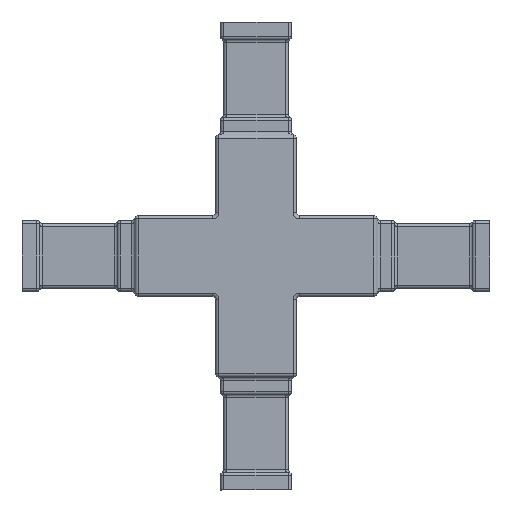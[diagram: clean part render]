
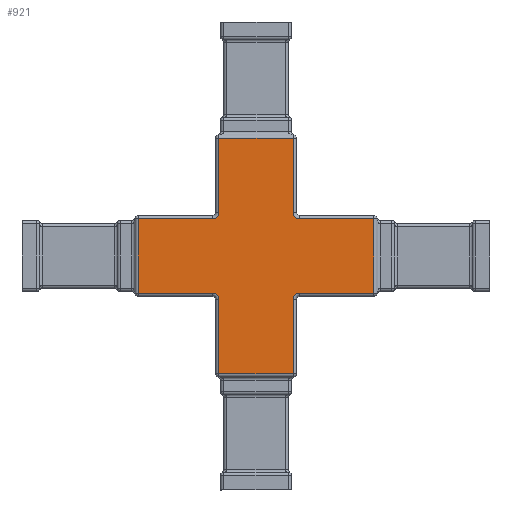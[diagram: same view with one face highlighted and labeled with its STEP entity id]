
A CAD part, left-side view. The second image highlights one B-rep face of the part: STEP entity #921.
In plain terms, the highlighted planar face has unit normal (-1, 0, 0).
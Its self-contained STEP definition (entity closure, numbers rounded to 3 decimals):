
#15 = DIRECTION ( 'NONE',  ( 0., 1., 0. ) ) ;
#89 = EDGE_CURVE ( 'NONE', #5860, #6797, #5262, .T. ) ;
#311 = CARTESIAN_POINT ( 'NONE',  ( -12.5, 12.5, -30.5 ) ) ;
#351 = ORIENTED_EDGE ( 'NONE', *, *, #1222, .F. ) ;
#394 = CARTESIAN_POINT ( 'NONE',  ( -12.5, 11.5, -53.5 ) ) ;
#428 = VERTEX_POINT ( 'NONE', #11504 ) ;
#440 = VERTEX_POINT ( 'NONE', #2676 ) ;
#488 = VECTOR ( 'NONE', #15, 1000. ) ;
#490 = VERTEX_POINT ( 'NONE', #2811 ) ;
#533 = CARTESIAN_POINT ( 'NONE',  ( -12.5, -36.5, -78.5 ) ) ;
#541 = CARTESIAN_POINT ( 'NONE',  ( -12.5, 13.5, -80.5 ) ) ;
#658 = LINE ( 'NONE', #2967, #3164 ) ;
#693 = DIRECTION ( 'NONE',  ( 0., 0., -1. ) ) ;
#700 = VECTOR ( 'NONE', #10327, 1000. ) ;
#845 = ORIENTED_EDGE ( 'NONE', *, *, #7295, .F. ) ;
#892 = LINE ( 'NONE', #6316, #5852 ) ;
#921 = ADVANCED_FACE ( 'NONE', ( #11568 ), #12792, .F. ) ;
#972 = CARTESIAN_POINT ( 'NONE',  ( -12.5, -13.5, -53.5 ) ) ;
#1191 = AXIS2_PLACEMENT_3D ( 'NONE', #11473, #11517, #2600 ) ;
#1222 = EDGE_CURVE ( 'NONE', #12097, #2711, #5976, .T. ) ;
#1323 = DIRECTION ( 'NONE',  ( 0., -1., 0. ) ) ;
#1376 = CIRCLE ( 'NONE', #10861, 2. ) ;
#1485 = ORIENTED_EDGE ( 'NONE', *, *, #11679, .F. ) ;
#1653 = CARTESIAN_POINT ( 'NONE',  ( -12.5, 13.5, -53.5 ) ) ;
#1840 = VECTOR ( 'NONE', #2404, 1000. ) ;
#1914 = LINE ( 'NONE', #9614, #9849 ) ;
#1952 = CARTESIAN_POINT ( 'NONE',  ( -12.5, 36.5, -54.5 ) ) ;
#2070 = ORIENTED_EDGE ( 'NONE', *, *, #89, .F. ) ;
#2127 = CARTESIAN_POINT ( 'NONE',  ( -12.5, -12.5, -67. ) ) ;
#2192 = EDGE_CURVE ( 'NONE', #6388, #7193, #658, .T. ) ;
#2334 = DIRECTION ( 'NONE',  ( 1., 0., 0. ) ) ;
#2404 = DIRECTION ( 'NONE',  ( 0., 0., -1. ) ) ;
#2525 = EDGE_CURVE ( 'NONE', #12097, #5263, #11369, .T. ) ;
#2600 = DIRECTION ( 'NONE',  ( 0., 0., 1. ) ) ;
#2676 = CARTESIAN_POINT ( 'NONE',  ( -12.5, -11.5, -53.5 ) ) ;
#2711 = VERTEX_POINT ( 'NONE', #5010 ) ;
#2811 = CARTESIAN_POINT ( 'NONE',  ( -12.5, 36.5, -78.5 ) ) ;
#2967 = CARTESIAN_POINT ( 'NONE',  ( -12.5, 36.5, -55.5 ) ) ;
#3004 = DIRECTION ( 'NONE',  ( 0., 0., 1. ) ) ;
#3033 = EDGE_LOOP ( 'NONE', ( #3313, #11642, #1485, #845, #8391, #351, #5596, #11263, #5851, #2070, #6496, #4863, #6849, #8128, #4426, #11471 ) ) ;
#3098 = EDGE_CURVE ( 'NONE', #5915, #490, #8100, .T. ) ;
#3117 = LINE ( 'NONE', #11328, #7132 ) ;
#3164 = VECTOR ( 'NONE', #9813, 1000. ) ;
#3313 = ORIENTED_EDGE ( 'NONE', *, *, #10965, .F. ) ;
#3375 = DIRECTION ( 'NONE',  ( 0., 0., 1. ) ) ;
#3469 = DIRECTION ( 'NONE',  ( 0., 0., 1. ) ) ;
#3673 = DIRECTION ( 'NONE',  ( 0., 1., 0. ) ) ;
#3733 = CARTESIAN_POINT ( 'NONE',  ( -12.5, 13.5, -55.5 ) ) ;
#4422 = CARTESIAN_POINT ( 'NONE',  ( -12.5, 13.5, -78.5 ) ) ;
#4426 = ORIENTED_EDGE ( 'NONE', *, *, #5564, .T. ) ;
#4813 = VECTOR ( 'NONE', #7670, 1000. ) ;
#4823 = CARTESIAN_POINT ( 'NONE',  ( -12.5, -11.5, -80.5 ) ) ;
#4863 = ORIENTED_EDGE ( 'NONE', *, *, #12710, .T. ) ;
#4934 = DIRECTION ( 'NONE',  ( 0., 0., -1. ) ) ;
#5010 = CARTESIAN_POINT ( 'NONE',  ( -12.5, -11.5, -103.5 ) ) ;
#5062 = CIRCLE ( 'NONE', #10764, 2. ) ;
#5118 = DIRECTION ( 'NONE',  ( 0., 0., 1. ) ) ;
#5261 = VERTEX_POINT ( 'NONE', #7158 ) ;
#5262 = LINE ( 'NONE', #10661, #4813 ) ;
#5263 = VERTEX_POINT ( 'NONE', #6120 ) ;
#5315 = VECTOR ( 'NONE', #5381, 1000. ) ;
#5381 = DIRECTION ( 'NONE',  ( 0., 1., 0. ) ) ;
#5397 = EDGE_CURVE ( 'NONE', #9742, #5261, #11860, .T. ) ;
#5492 = EDGE_CURVE ( 'NONE', #2711, #12534, #1914, .T. ) ;
#5564 = EDGE_CURVE ( 'NONE', #428, #6388, #12008, .T. ) ;
#5596 = ORIENTED_EDGE ( 'NONE', *, *, #2525, .T. ) ;
#5851 = ORIENTED_EDGE ( 'NONE', *, *, #6546, .T. ) ;
#5852 = VECTOR ( 'NONE', #9933, 1000. ) ;
#5860 = VERTEX_POINT ( 'NONE', #6230 ) ;
#5862 = LINE ( 'NONE', #394, #1840 ) ;
#5915 = VERTEX_POINT ( 'NONE', #4422 ) ;
#5976 = LINE ( 'NONE', #6413, #700 ) ;
#6120 = CARTESIAN_POINT ( 'NONE',  ( -12.5, -13.5, -78.5 ) ) ;
#6230 = CARTESIAN_POINT ( 'NONE',  ( -12.5, -13.5, -55.5 ) ) ;
#6316 = CARTESIAN_POINT ( 'NONE',  ( -12.5, -11.5, -67. ) ) ;
#6388 = VERTEX_POINT ( 'NONE', #3733 ) ;
#6391 = DIRECTION ( 'NONE',  ( 0., 0., -1. ) ) ;
#6413 = CARTESIAN_POINT ( 'NONE',  ( -12.5, -11.5, -67. ) ) ;
#6496 = ORIENTED_EDGE ( 'NONE', *, *, #9938, .F. ) ;
#6502 = VECTOR ( 'NONE', #1323, 1000. ) ;
#6546 = EDGE_CURVE ( 'NONE', #8789, #6797, #7962, .T. ) ;
#6556 = DIRECTION ( 'NONE',  ( 1., 0., 0. ) ) ;
#6797 = VERTEX_POINT ( 'NONE', #12306 ) ;
#6849 = ORIENTED_EDGE ( 'NONE', *, *, #5397, .T. ) ;
#6990 = CARTESIAN_POINT ( 'NONE',  ( -12.5, -36.5, -54.5 ) ) ;
#7121 = AXIS2_PLACEMENT_3D ( 'NONE', #1653, #6556, #693 ) ;
#7132 = VECTOR ( 'NONE', #3375, 1000. ) ;
#7158 = CARTESIAN_POINT ( 'NONE',  ( -12.5, 11.5, -30.5 ) ) ;
#7193 = VERTEX_POINT ( 'NONE', #10910 ) ;
#7295 = EDGE_CURVE ( 'NONE', #12534, #12131, #3117, .T. ) ;
#7670 = DIRECTION ( 'NONE',  ( 0., -1., 0. ) ) ;
#7819 = CARTESIAN_POINT ( 'NONE',  ( -12.5, 11.5, -80.5 ) ) ;
#7962 = LINE ( 'NONE', #6990, #12606 ) ;
#8041 = CARTESIAN_POINT ( 'NONE',  ( -12.5, 36.5, -78.5 ) ) ;
#8100 = LINE ( 'NONE', #8041, #488 ) ;
#8128 = ORIENTED_EDGE ( 'NONE', *, *, #11935, .T. ) ;
#8223 = EDGE_CURVE ( 'NONE', #5263, #8789, #12557, .T. ) ;
#8391 = ORIENTED_EDGE ( 'NONE', *, *, #5492, .F. ) ;
#8757 = CARTESIAN_POINT ( 'NONE',  ( -12.5, 11.5, -103.5 ) ) ;
#8789 = VERTEX_POINT ( 'NONE', #533 ) ;
#9614 = CARTESIAN_POINT ( 'NONE',  ( -12.5, 12.5, -103.5 ) ) ;
#9742 = VERTEX_POINT ( 'NONE', #11522 ) ;
#9813 = DIRECTION ( 'NONE',  ( 0., 1., 0. ) ) ;
#9849 = VECTOR ( 'NONE', #3673, 1000. ) ;
#9933 = DIRECTION ( 'NONE',  ( 0., 0., 1. ) ) ;
#9938 = EDGE_CURVE ( 'NONE', #440, #5860, #5062, .T. ) ;
#10106 = CARTESIAN_POINT ( 'NONE',  ( -12.5, -36.5, -78.5 ) ) ;
#10239 = VECTOR ( 'NONE', #3004, 1000. ) ;
#10327 = DIRECTION ( 'NONE',  ( 0., 0., -1. ) ) ;
#10441 = DIRECTION ( 'NONE',  ( -1., 0., 0. ) ) ;
#10661 = CARTESIAN_POINT ( 'NONE',  ( -12.5, -36.5, -55.5 ) ) ;
#10764 = AXIS2_PLACEMENT_3D ( 'NONE', #972, #10990, #4934 ) ;
#10861 = AXIS2_PLACEMENT_3D ( 'NONE', #541, #10441, #3469 ) ;
#10910 = CARTESIAN_POINT ( 'NONE',  ( -12.5, 36.5, -55.5 ) ) ;
#10965 = EDGE_CURVE ( 'NONE', #490, #7193, #11240, .T. ) ;
#10990 = DIRECTION ( 'NONE',  ( -1., 0., 0. ) ) ;
#11240 = LINE ( 'NONE', #1952, #10239 ) ;
#11263 = ORIENTED_EDGE ( 'NONE', *, *, #8223, .T. ) ;
#11328 = CARTESIAN_POINT ( 'NONE',  ( -12.5, 11.5, -80.5 ) ) ;
#11369 = CIRCLE ( 'NONE', #1191, 2. ) ;
#11471 = ORIENTED_EDGE ( 'NONE', *, *, #2192, .T. ) ;
#11473 = CARTESIAN_POINT ( 'NONE',  ( -12.5, -13.5, -80.5 ) ) ;
#11504 = CARTESIAN_POINT ( 'NONE',  ( -12.5, 11.5, -53.5 ) ) ;
#11517 = DIRECTION ( 'NONE',  ( 1., 0., 0. ) ) ;
#11522 = CARTESIAN_POINT ( 'NONE',  ( -12.5, -11.5, -30.5 ) ) ;
#11568 = FACE_OUTER_BOUND ( 'NONE', #3033, .T. ) ;
#11642 = ORIENTED_EDGE ( 'NONE', *, *, #3098, .F. ) ;
#11679 = EDGE_CURVE ( 'NONE', #12131, #5915, #1376, .T. ) ;
#11860 = LINE ( 'NONE', #311, #5315 ) ;
#11935 = EDGE_CURVE ( 'NONE', #5261, #428, #5862, .T. ) ;
#12008 = CIRCLE ( 'NONE', #7121, 2. ) ;
#12097 = VERTEX_POINT ( 'NONE', #4823 ) ;
#12131 = VERTEX_POINT ( 'NONE', #7819 ) ;
#12306 = CARTESIAN_POINT ( 'NONE',  ( -12.5, -36.5, -55.5 ) ) ;
#12534 = VERTEX_POINT ( 'NONE', #8757 ) ;
#12557 = LINE ( 'NONE', #10106, #6502 ) ;
#12606 = VECTOR ( 'NONE', #5118, 1000. ) ;
#12710 = EDGE_CURVE ( 'NONE', #440, #9742, #892, .T. ) ;
#12792 = PLANE ( 'NONE',  #12808 ) ;
#12808 = AXIS2_PLACEMENT_3D ( 'NONE', #2127, #2334, #6391 ) ;
